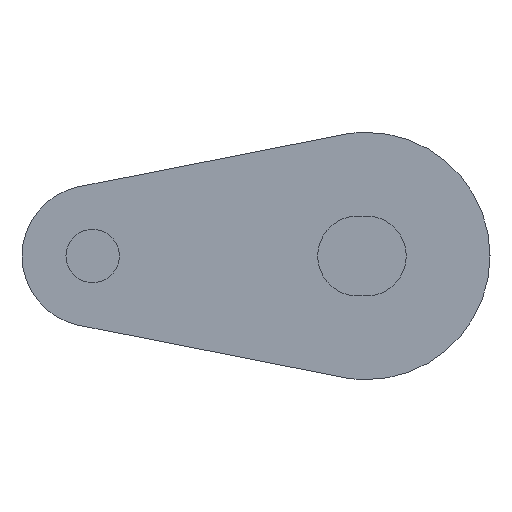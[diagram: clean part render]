
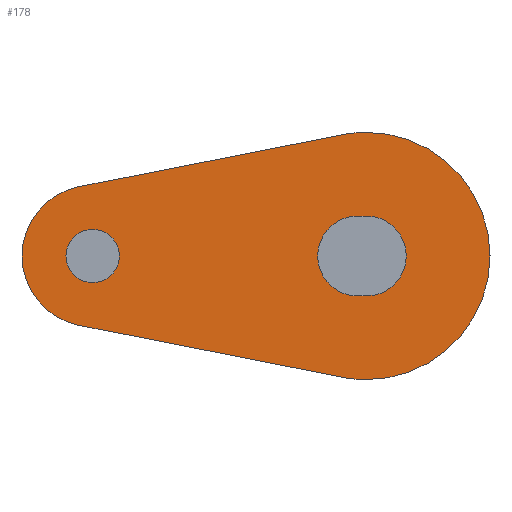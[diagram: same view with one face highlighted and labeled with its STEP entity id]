
A CAD part, left-side view. The second image highlights one B-rep face of the part: STEP entity #178.
In plain terms, the highlighted planar face has unit normal (-1, 0, 0).
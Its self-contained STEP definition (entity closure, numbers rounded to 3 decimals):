
#3 = EDGE_CURVE ( 'NONE', #514, #467, #331, .T. ) ;
#6 = AXIS2_PLACEMENT_3D ( 'NONE', #597, #594, #593 ) ;
#7 = AXIS2_PLACEMENT_3D ( 'NONE', #577, #576, #598 ) ;
#13 = AXIS2_PLACEMENT_3D ( 'NONE', #591, #625, #641 ) ;
#19 = EDGE_CURVE ( 'NONE', #506, #547, #231, .T. ) ;
#44 = AXIS2_PLACEMENT_3D ( 'NONE', #659, #660, #661 ) ;
#62 = EDGE_CURVE ( 'NONE', #513, #514, #206, .T. ) ;
#74 = EDGE_CURVE ( 'NONE', #519, #513, #1060, .T. ) ;
#80 = AXIS2_PLACEMENT_3D ( 'NONE', #490, #492, #493 ) ;
#88 = EDGE_CURVE ( 'NONE', #550, #524, #200, .T. ) ;
#93 = AXIS2_PLACEMENT_3D ( 'NONE', #592, #590, #589 ) ;
#95 = EDGE_CURVE ( 'NONE', #548, #538, #1042, .T. ) ;
#98 = EDGE_CURVE ( 'NONE', #467, #548, #982, .T. ) ;
#99 = EDGE_CURVE ( 'NONE', #561, #550, #1037, .T. ) ;
#106 = EDGE_CURVE ( 'NONE', #560, #561, #1044, .T. ) ;
#108 = EDGE_CURVE ( 'NONE', #547, #506, #985, .T. ) ;
#112 = AXIS2_PLACEMENT_3D ( 'NONE', #711, #706, #698 ) ;
#114 = AXIS2_PLACEMENT_3D ( 'NONE', #730, #723, #724 ) ;
#131 = AXIS2_PLACEMENT_3D ( 'NONE', #453, #520, #516 ) ;
#148 = EDGE_CURVE ( 'NONE', #538, #519, #1011, .T. ) ;
#159 = EDGE_CURVE ( 'NONE', #524, #560, #1000, .T. ) ;
#178 = ADVANCED_FACE ( 'NONE', ( #978, #974, #972 ), #667, .T. ) ;
#200 = LINE ( 'NONE', #621, #1058 ) ;
#206 = CIRCLE ( 'NONE', #80, 4. ) ;
#231 = CIRCLE ( 'NONE', #131, 1.51 ) ;
#275 = ORIENTED_EDGE ( 'NONE', *, *, #62, .F. ) ;
#276 = ORIENTED_EDGE ( 'NONE', *, *, #74, .F. ) ;
#277 = ORIENTED_EDGE ( 'NONE', *, *, #148, .F. ) ;
#326 = EDGE_LOOP ( 'NONE', ( #353, #389, #336, #367 ) ) ;
#328 = EDGE_LOOP ( 'NONE', ( #275, #276, #277, #360, #383, #406 ) ) ;
#330 = EDGE_LOOP ( 'NONE', ( #368, #361 ) ) ;
#331 = LINE ( 'NONE', #509, #338 ) ;
#336 = ORIENTED_EDGE ( 'NONE', *, *, #99, .T. ) ;
#338 = VECTOR ( 'NONE', #511, 1000. ) ;
#353 = ORIENTED_EDGE ( 'NONE', *, *, #159, .T. ) ;
#360 = ORIENTED_EDGE ( 'NONE', *, *, #95, .F. ) ;
#361 = ORIENTED_EDGE ( 'NONE', *, *, #19, .T. ) ;
#367 = ORIENTED_EDGE ( 'NONE', *, *, #88, .T. ) ;
#368 = ORIENTED_EDGE ( 'NONE', *, *, #108, .T. ) ;
#383 = ORIENTED_EDGE ( 'NONE', *, *, #98, .F. ) ;
#389 = ORIENTED_EDGE ( 'NONE', *, *, #106, .T. ) ;
#406 = ORIENTED_EDGE ( 'NONE', *, *, #3, .F. ) ;
#453 = CARTESIAN_POINT ( 'NONE',  ( -229.5, 15.5, 0. ) ) ;
#467 = VERTEX_POINT ( 'NONE', #876 ) ;
#490 = CARTESIAN_POINT ( 'NONE',  ( -229.5, 15.5, 0. ) ) ;
#492 = DIRECTION ( 'NONE',  ( 1., 0., 0. ) ) ;
#493 = DIRECTION ( 'NONE',  ( 0., 0., -1. ) ) ;
#506 = VERTEX_POINT ( 'NONE', #777 ) ;
#509 = CARTESIAN_POINT ( 'NONE',  ( -229.5, 16.274, 3.924 ) ) ;
#511 = DIRECTION ( 'NONE',  ( 0., -0.981, 0.194 ) ) ;
#513 = VERTEX_POINT ( 'NONE', #774 ) ;
#514 = VERTEX_POINT ( 'NONE', #775 ) ;
#516 = DIRECTION ( 'NONE',  ( 0., 0., -1. ) ) ;
#519 = VERTEX_POINT ( 'NONE', #825 ) ;
#520 = DIRECTION ( 'NONE',  ( 1., 0., 0. ) ) ;
#524 = VERTEX_POINT ( 'NONE', #821 ) ;
#538 = VERTEX_POINT ( 'NONE', #814 ) ;
#547 = VERTEX_POINT ( 'NONE', #799 ) ;
#548 = VERTEX_POINT ( 'NONE', #800 ) ;
#550 = VERTEX_POINT ( 'NONE', #802 ) ;
#560 = VERTEX_POINT ( 'NONE', #805 ) ;
#561 = VERTEX_POINT ( 'NONE', #806 ) ;
#576 = DIRECTION ( 'NONE',  ( 1., 0., 0. ) ) ;
#577 = CARTESIAN_POINT ( 'NONE',  ( -229.5, 0., 0. ) ) ;
#582 = CARTESIAN_POINT ( 'NONE',  ( -229.5, 0.5, 2.26 ) ) ;
#583 = DIRECTION ( 'NONE',  ( 0., -1., 0. ) ) ;
#589 = DIRECTION ( 'NONE',  ( 0., 0., -1. ) ) ;
#590 = DIRECTION ( 'NONE',  ( 1., 0., 0. ) ) ;
#591 = CARTESIAN_POINT ( 'NONE',  ( -229.5, 15.5, 0. ) ) ;
#592 = CARTESIAN_POINT ( 'NONE',  ( -229.5, 0., 0. ) ) ;
#593 = DIRECTION ( 'NONE',  ( 0., 0., -1. ) ) ;
#594 = DIRECTION ( 'NONE',  ( 1., 0., 0. ) ) ;
#597 = CARTESIAN_POINT ( 'NONE',  ( -229.5, 0., 0. ) ) ;
#598 = DIRECTION ( 'NONE',  ( 0., 0., -1. ) ) ;
#614 = CARTESIAN_POINT ( 'NONE',  ( -229.5, 1.355, -6.868 ) ) ;
#615 = DIRECTION ( 'NONE',  ( 0., 0.981, 0.194 ) ) ;
#621 = CARTESIAN_POINT ( 'NONE',  ( -229.5, 0.5, -2.26 ) ) ;
#622 = DIRECTION ( 'NONE',  ( 0., 1., 0. ) ) ;
#625 = DIRECTION ( 'NONE',  ( 1., 0., 0. ) ) ;
#641 = DIRECTION ( 'NONE',  ( 0., 0., -1. ) ) ;
#659 = CARTESIAN_POINT ( 'NONE',  ( -229.5, 15.5, 0. ) ) ;
#660 = DIRECTION ( 'NONE',  ( -1., 0., 0. ) ) ;
#661 = DIRECTION ( 'NONE',  ( 0., 0., -1. ) ) ;
#667 = PLANE ( 'NONE',  #44 ) ;
#698 = DIRECTION ( 'NONE',  ( 0., 0., -1. ) ) ;
#706 = DIRECTION ( 'NONE',  ( 1., 0., 0. ) ) ;
#711 = CARTESIAN_POINT ( 'NONE',  ( -229.5, 0.5, 0. ) ) ;
#723 = DIRECTION ( 'NONE',  ( 1., 0., 0. ) ) ;
#724 = DIRECTION ( 'NONE',  ( 0., 0., -1. ) ) ;
#730 = CARTESIAN_POINT ( 'NONE',  ( -229.5, 0., 0. ) ) ;
#774 = CARTESIAN_POINT ( 'NONE',  ( -229.5, 16.274, -3.924 ) ) ;
#775 = CARTESIAN_POINT ( 'NONE',  ( -229.5, 16.274, 3.924 ) ) ;
#777 = CARTESIAN_POINT ( 'NONE',  ( -229.5, 15.5, 1.51 ) ) ;
#799 = CARTESIAN_POINT ( 'NONE',  ( -229.5, 15.5, -1.51 ) ) ;
#800 = CARTESIAN_POINT ( 'NONE',  ( -229.5, 0., 7. ) ) ;
#802 = CARTESIAN_POINT ( 'NONE',  ( -229.5, 0., -2.26 ) ) ;
#805 = CARTESIAN_POINT ( 'NONE',  ( -229.5, 0.5, 2.26 ) ) ;
#806 = CARTESIAN_POINT ( 'NONE',  ( -229.5, 0., 2.26 ) ) ;
#814 = CARTESIAN_POINT ( 'NONE',  ( -229.5, 0., -7. ) ) ;
#821 = CARTESIAN_POINT ( 'NONE',  ( -229.5, 0.5, -2.26 ) ) ;
#825 = CARTESIAN_POINT ( 'NONE',  ( -229.5, 1.355, -6.868 ) ) ;
#876 = CARTESIAN_POINT ( 'NONE',  ( -229.5, 1.355, 6.868 ) ) ;
#972 = FACE_OUTER_BOUND ( 'NONE', #328, .T. ) ;
#974 = FACE_BOUND ( 'NONE', #330, .T. ) ;
#978 = FACE_BOUND ( 'NONE', #326, .T. ) ;
#982 = CIRCLE ( 'NONE', #6, 7. ) ;
#985 = CIRCLE ( 'NONE', #13, 1.51 ) ;
#1000 = CIRCLE ( 'NONE', #112, 2.26 ) ;
#1011 = CIRCLE ( 'NONE', #114, 7. ) ;
#1022 = VECTOR ( 'NONE', #583, 1000. ) ;
#1037 = CIRCLE ( 'NONE', #93, 2.26 ) ;
#1042 = CIRCLE ( 'NONE', #7, 7. ) ;
#1044 = LINE ( 'NONE', #582, #1022 ) ;
#1058 = VECTOR ( 'NONE', #622, 1000. ) ;
#1060 = LINE ( 'NONE', #614, #1069 ) ;
#1069 = VECTOR ( 'NONE', #615, 1000. ) ;
